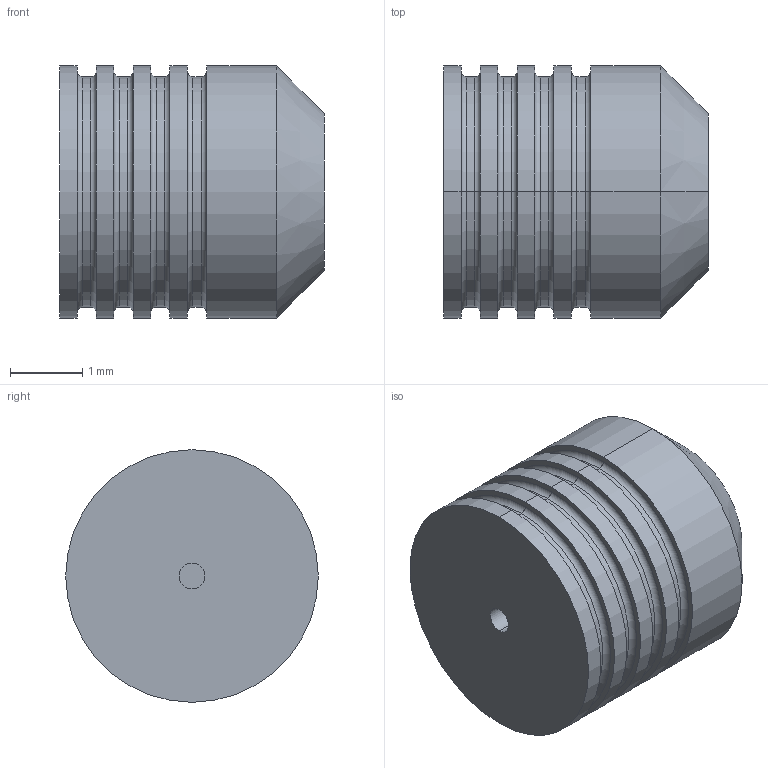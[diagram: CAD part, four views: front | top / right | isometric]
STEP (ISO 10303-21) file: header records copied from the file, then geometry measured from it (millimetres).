
FILE_DESCRIPTION (( 'STEP AP214' ), '1' );
FILE_NAME ('PLGM0350 _ _ 0A.STEP', '2020-02-19T17:48:28', ( 'tlc' ), ( 'Microsoft' ), 'SwSTEP 2.0', 'SolidWorks 2019', '' );
FILE_SCHEMA (( 'AUTOMOTIVE_DESIGN' ));
Length unit declared in the file: inch
Products named in the file (1): PLGM0350 _ _ 0A
Bounding box: 3.66 x 3.49 x 3.49 mm (x, y, z)
Volume: 31 mm3; surface area: 66.5 mm2
Topology: 1 solids, 1 shells, 49 faces, 96 edges, 58 vertices
Faces by surface type: cylinder 20, torus 16, plane 11, cone 2
Entity records: 1320 total; most frequent: DIRECTION 270, CARTESIAN_POINT 204, ORIENTED_EDGE 192, AXIS2_PLACEMENT_3D 124, EDGE_CURVE 96, CIRCLE 74, VERTEX_POINT 58, EDGE_LOOP 58
